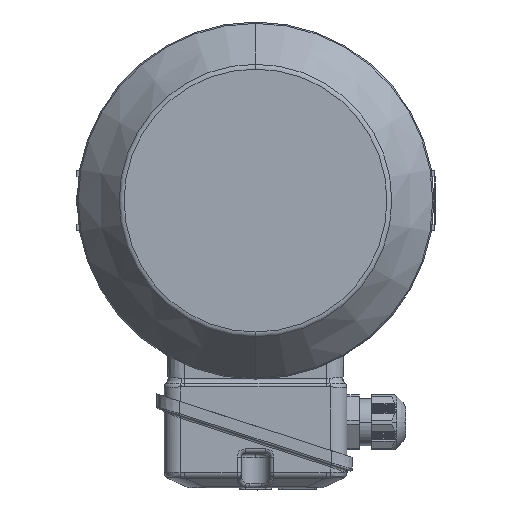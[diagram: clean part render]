
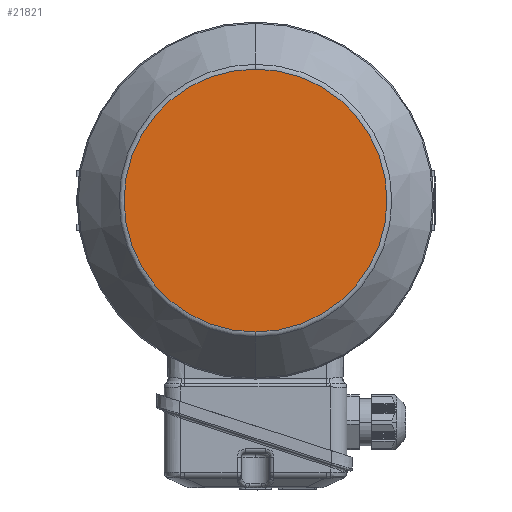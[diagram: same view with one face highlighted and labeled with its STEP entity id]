
A CAD part, left-side view. The second image highlights one B-rep face of the part: STEP entity #21821.
In plain terms, the highlighted planar face has unit normal (-1, 0, 0).
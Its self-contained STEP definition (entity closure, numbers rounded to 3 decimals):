
#3559 = CARTESIAN_POINT ( 'NONE',  ( -166.5, 0., -64.037 ) ) ;
#3723 = AXIS2_PLACEMENT_3D ( 'NONE', #35051, #18664, #6349 ) ;
#3980 = DIRECTION ( 'NONE',  ( 0., 1., 0. ) ) ;
#4412 = AXIS2_PLACEMENT_3D ( 'NONE', #3559, #16115, #3980 ) ;
#4582 = CIRCLE ( 'NONE', #29999, 64.037 ) ;
#6349 = DIRECTION ( 'NONE',  ( 0., 0., -1. ) ) ;
#7336 = CARTESIAN_POINT ( 'NONE',  ( -166.5, 0., 64.037 ) ) ;
#9371 = ORIENTED_EDGE ( 'NONE', *, *, #27217, .F. ) ;
#11269 = CIRCLE ( 'NONE', #3723, 64.037 ) ;
#12730 = DIRECTION ( 'NONE',  ( 0., 0., -1. ) ) ;
#15550 = CARTESIAN_POINT ( 'NONE',  ( -166.5, 0., 0. ) ) ;
#16115 = DIRECTION ( 'NONE',  ( -1., 0., 0. ) ) ;
#18664 = DIRECTION ( 'NONE',  ( 1., 0., 0. ) ) ;
#19385 = ORIENTED_EDGE ( 'NONE', *, *, #31554, .F. ) ;
#21821 = ADVANCED_FACE ( 'NONE', ( #24086 ), #38924, .T. ) ;
#24086 = FACE_OUTER_BOUND ( 'NONE', #36004, .T. ) ;
#27217 = EDGE_CURVE ( 'NONE', #38584, #39666, #11269, .T. ) ;
#29999 = AXIS2_PLACEMENT_3D ( 'NONE', #15550, #31956, #12730 ) ;
#31554 = EDGE_CURVE ( 'NONE', #39666, #38584, #4582, .T. ) ;
#31956 = DIRECTION ( 'NONE',  ( 1., 0., 0. ) ) ;
#34542 = CARTESIAN_POINT ( 'NONE',  ( -166.5, 0., -64.037 ) ) ;
#35051 = CARTESIAN_POINT ( 'NONE',  ( -166.5, 0., 0. ) ) ;
#36004 = EDGE_LOOP ( 'NONE', ( #19385, #9371 ) ) ;
#38584 = VERTEX_POINT ( 'NONE', #7336 ) ;
#38924 = PLANE ( 'NONE',  #4412 ) ;
#39666 = VERTEX_POINT ( 'NONE', #34542 ) ;
